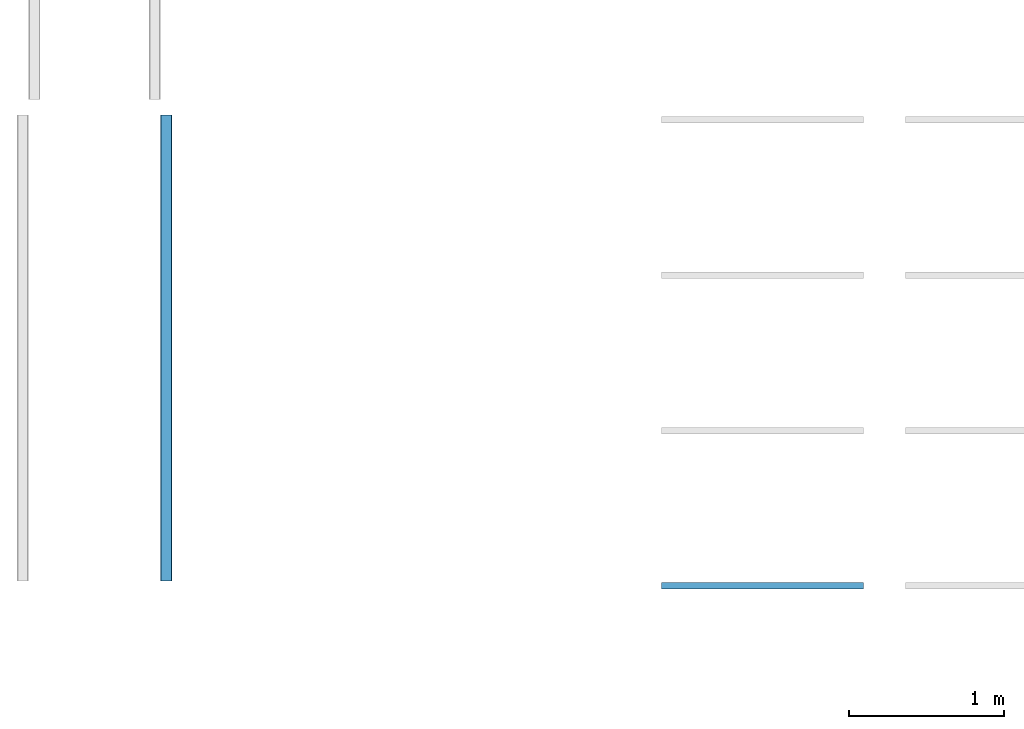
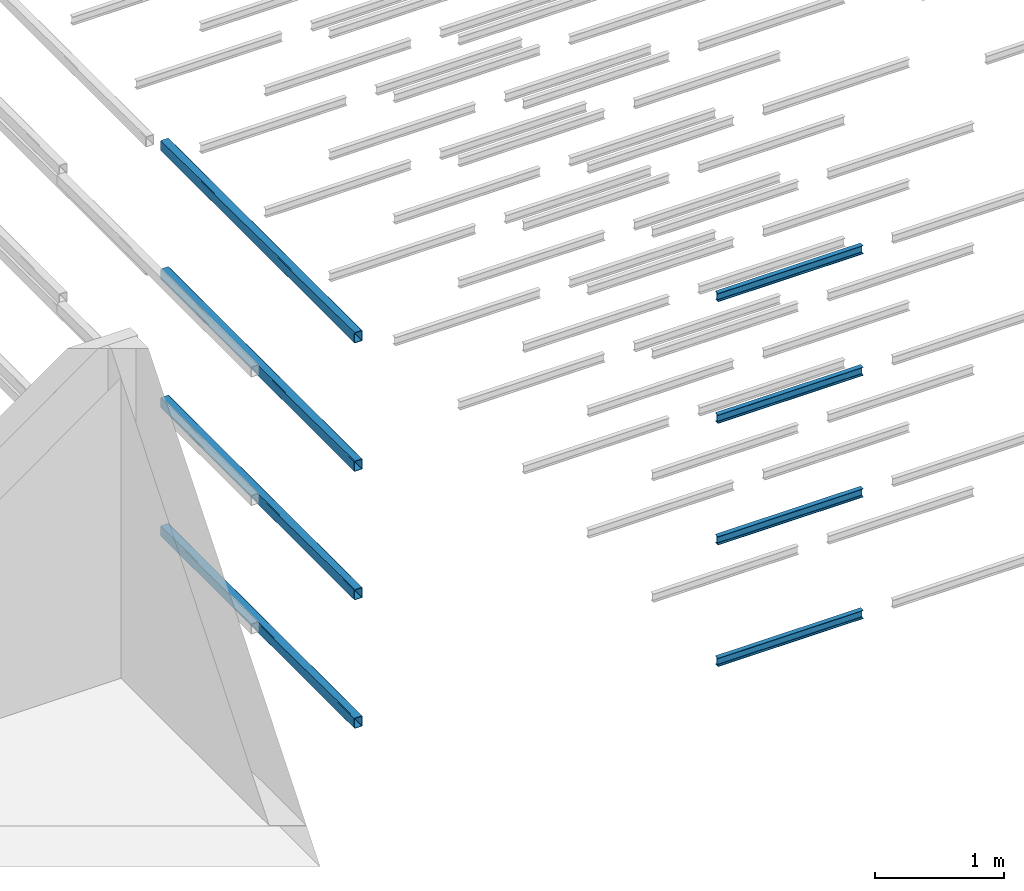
# One storey, part 32 of 290: 8 beams.
"""IFC2X3 building model written with IfcOpenShell, lengths in metres."""

from ifc_helpers import new_model, entity, si_unit, converted_unit, derived_unit, direction, frame, frame_2d, origin, place, context, subcontext, project, spatial, polyline, circle_curve, parameter, trimmed, segment, composite_curve, outline, extrude, material, type_object, element, save


model = new_model("IFC2X3")

# Units and contexts
model_context = context("Model", 3, precision=1e-05, world=origin(), true_north=direction((6.12303176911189e-17, 1.0)))
body_context = subcontext(model_context, "Body", "Model", "MODEL_VIEW")
ifc_project = project(units=[si_unit("LENGTHUNIT", "METRE"), si_unit("AREAUNIT", "SQUARE_METRE"), si_unit("VOLUMEUNIT", "CUBIC_METRE"), converted_unit("PLANEANGLEUNIT", "DEGREE", entity("IfcRatioMeasure", 0.0174532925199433), si_unit("PLANEANGLEUNIT", "RADIAN"), dimensions=[0, 0, 0, 0, 0, 0, 0]), si_unit("MASSUNIT", "GRAM", prefix="KILO"), derived_unit("MASSDENSITYUNIT", [(si_unit("MASSUNIT", "GRAM", prefix="KILO"), 1), (si_unit("LENGTHUNIT", "METRE"), -3)]), derived_unit("MOMENTOFINERTIAUNIT", [(si_unit("LENGTHUNIT", "METRE"), 4)]), si_unit("TIMEUNIT", "SECOND"), si_unit("FREQUENCYUNIT", "HERTZ"), si_unit("THERMODYNAMICTEMPERATUREUNIT", "DEGREE_CELSIUS"), derived_unit("THERMALTRANSMITTANCEUNIT", [(si_unit("MASSUNIT", "GRAM", prefix="KILO"), 1), (si_unit("THERMODYNAMICTEMPERATUREUNIT", "KELVIN"), -1), (si_unit("TIMEUNIT", "SECOND"), -3)]), derived_unit("VOLUMETRICFLOWRATEUNIT", [(si_unit("LENGTHUNIT", "METRE"), 3), (si_unit("TIMEUNIT", "SECOND"), -1)]), si_unit("ELECTRICCURRENTUNIT", "AMPERE"), si_unit("ELECTRICVOLTAGEUNIT", "VOLT"), si_unit("POWERUNIT", "WATT"), si_unit("FORCEUNIT", "NEWTON", prefix="KILO"), si_unit("ILLUMINANCEUNIT", "LUX"), si_unit("LUMINOUSFLUXUNIT", "LUMEN"), si_unit("LUMINOUSINTENSITYUNIT", "CANDELA"), derived_unit("USERDEFINED", [(si_unit("MASSUNIT", "GRAM", prefix="KILO"), -1), (si_unit("LENGTHUNIT", "METRE"), -2), (si_unit("TIMEUNIT", "SECOND"), 3), (si_unit("LUMINOUSFLUXUNIT", "LUMEN"), 1)]), derived_unit("LINEARVELOCITYUNIT", [(si_unit("LENGTHUNIT", "METRE"), 1), (si_unit("TIMEUNIT", "SECOND"), -1)]), si_unit("PRESSUREUNIT", "PASCAL"), derived_unit("USERDEFINED", [(si_unit("LENGTHUNIT", "METRE"), -2), (si_unit("MASSUNIT", "GRAM", prefix="KILO"), 1), (si_unit("TIMEUNIT", "SECOND"), -2)]), derived_unit("LINEARFORCEUNIT", [(si_unit("MASSUNIT", "GRAM", prefix="KILO"), 1), (si_unit("LENGTHUNIT", "METRE"), 1), (si_unit("TIMEUNIT", "SECOND"), -2), (si_unit("LENGTHUNIT", "METRE"), -1)]), derived_unit("PLANARFORCEUNIT", [(si_unit("MASSUNIT", "GRAM", prefix="KILO"), 1), (si_unit("LENGTHUNIT", "METRE"), 1), (si_unit("TIMEUNIT", "SECOND"), -2), (si_unit("LENGTHUNIT", "METRE"), -2)])], contexts=[model_context])

# Site, building, storey
site_placement = place(None, origin())
site = spatial("IfcSite", under=ifc_project, at=site_placement, Name="Default", CompositionType="ELEMENT")
building_placement = place(site_placement, origin())
building = spatial("IfcBuilding", under=site, at=building_placement, CompositionType="ELEMENT")
storey_placement = place(building_placement, frame((0.0, 0.0, 4.0)))
storey = spatial("IfcBuildingStorey", under=building, at=storey_placement, Name="01_OG", CompositionType="ELEMENT", Elevation=4.0)

# Beams
ifc_material_1 = material(Name="Metall - Baustahl S235 blau")
beam_type_1 = type_object("IfcBeamType", Name="RHS Träger (EN 10219-2):RHS 100 x 75 x 5", PredefinedType="NOTDEFINED")
beam_1_placement = place(storey_placement, frame((-175.305111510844, 24.048088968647, 0.0150000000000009), z_axis=(0.0, 0.0, 1.0), x_axis=(0.0, 1.0, 0.0)))
element("IfcBeam", 1, at=beam_1_placement, inside=storey, type_object=beam_type_1, material=ifc_material_1, Name="RHS Träger (EN 10219-2):RHS 100 x 75 x 5", ObjectType="RHS Träger (EN 10219-2):RHS 100 x 75 x 5", context=body_context, shape_type="SweptSolid", body=[
    extrude(outline(composite_curve([segment(polyline([(-0.0400000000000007, -0.0374999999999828), (0.0399999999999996, -0.0374999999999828)]), True, "CONTINUOUS"), segment(trimmed(circle_curve(frame_2d((0.0399999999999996, -0.0274999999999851), x_axis=(0.0, 1.0)), 0.01), [parameter(180.0)], [parameter(270.0)], True, "PARAMETER"), True, "CONTINUOUS"), segment(polyline([(0.0499999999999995, -0.0274999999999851), (0.0499999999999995, 0.0274999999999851)]), True, "CONTINUOUS"), segment(trimmed(circle_curve(frame_2d((0.0399999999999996, 0.0274999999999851), x_axis=(0.0, 1.0)), 0.01), [parameter(270.0)], [parameter(4.07110999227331e-13)], True, "PARAMETER"), True, "CONTINUOUS"), segment(polyline([(0.0399999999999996, 0.0375000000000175), (-0.0400000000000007, 0.0375000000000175)]), True, "CONTINUOUS"), segment(trimmed(circle_curve(frame_2d((-0.0400000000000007, 0.0274999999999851), x_axis=(0.0, 1.0)), 0.01), [parameter(360.0)], [parameter(90.0000000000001)], True, "PARAMETER"), True, "CONTINUOUS"), segment(polyline([(-0.0500000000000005, 0.0274999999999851), (-0.0500000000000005, -0.0274999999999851)]), True, "CONTINUOUS"), segment(trimmed(circle_curve(frame_2d((-0.0400000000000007, -0.0274999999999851), x_axis=(0.0, 1.0)), 0.01), [parameter(90.0000000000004)], [parameter(180.0)], True, "PARAMETER"), True, "CONTINUOUS")], self_intersect=False), holes=[composite_curve([segment(trimmed(circle_curve(frame_2d((-0.0400000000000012, 0.0274999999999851), x_axis=(0.0, 1.0)), 0.005), [parameter(360.0)], [parameter(89.9999999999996)], True, "PARAMETER"), False, "CONTINUOUS"), segment(polyline([(-0.0400000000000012, 0.0325000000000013), (0.0399999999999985, 0.0325000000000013)]), True, "CONTINUOUS"), segment(trimmed(circle_curve(frame_2d((0.0399999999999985, 0.0274999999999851), x_axis=(0.0, 1.0)), 0.005), [parameter(270.0)], [parameter(0.0)], True, "PARAMETER"), False, "CONTINUOUS"), segment(polyline([(0.0449999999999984, 0.0274999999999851), (0.0449999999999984, -0.0274999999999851)]), True, "CONTINUOUS"), segment(trimmed(circle_curve(frame_2d((0.0399999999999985, -0.0274999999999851), x_axis=(0.0, 1.0)), 0.005), [parameter(180.0)], [parameter(269.999999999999)], True, "PARAMETER"), False, "CONTINUOUS"), segment(polyline([(0.0399999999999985, -0.0325000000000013), (-0.0400000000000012, -0.0325000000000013)]), True, "CONTINUOUS"), segment(trimmed(circle_curve(frame_2d((-0.0400000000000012, -0.0274999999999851), x_axis=(0.0, 1.0)), 0.005), [parameter(90.0000000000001)], [parameter(180.0)], True, "PARAMETER"), False, "CONTINUOUS"), segment(polyline([(-0.0450000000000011, -0.0274999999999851), (-0.0450000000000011, 0.0274999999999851)]), True, "CONTINUOUS")], self_intersect=False)]), frame((9.99999999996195e-05, -0.0375000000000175, -0.0500000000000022), z_axis=(1.0, 0.0, 0.0), x_axis=(0.0, 0.0, -1.0)), (0.0, 0.0, 1.0), 2.9998),
])
beam_2_placement = place(storey_placement, frame((-175.305111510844, 24.048088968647, 1.23), z_axis=(0.0, 0.0, 1.0), x_axis=(0.0, 1.0, 0.0)))
element("IfcBeam", 2, at=beam_2_placement, inside=storey, type_object=beam_type_1, material=ifc_material_1, Name="RHS Träger (EN 10219-2):RHS 100 x 75 x 5", ObjectType="RHS Träger (EN 10219-2):RHS 100 x 75 x 5", context=body_context, shape_type="SweptSolid", body=[
    extrude(outline(composite_curve([segment(polyline([(-0.0399999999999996, -0.0374999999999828), (0.0399999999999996, -0.0374999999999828)]), True, "CONTINUOUS"), segment(trimmed(circle_curve(frame_2d((0.0399999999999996, -0.0274999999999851), x_axis=(0.0, 1.0)), 0.01), [parameter(180.0)], [parameter(270.0)], True, "PARAMETER"), True, "CONTINUOUS"), segment(polyline([(0.0500000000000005, -0.0274999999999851), (0.0500000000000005, 0.0274999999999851)]), True, "CONTINUOUS"), segment(trimmed(circle_curve(frame_2d((0.0399999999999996, 0.0274999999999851), x_axis=(0.0, 1.0)), 0.01), [parameter(270.0)], [parameter(4.07110999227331e-13)], True, "PARAMETER"), True, "CONTINUOUS"), segment(polyline([(0.0399999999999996, 0.0375000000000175), (-0.0399999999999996, 0.0375000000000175)]), True, "CONTINUOUS"), segment(trimmed(circle_curve(frame_2d((-0.0399999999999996, 0.0274999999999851), x_axis=(0.0, 1.0)), 0.01), [parameter(360.0)], [parameter(90.0000000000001)], True, "PARAMETER"), True, "CONTINUOUS"), segment(polyline([(-0.0499999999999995, 0.0274999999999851), (-0.0499999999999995, -0.0274999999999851)]), True, "CONTINUOUS"), segment(trimmed(circle_curve(frame_2d((-0.0399999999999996, -0.0274999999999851), x_axis=(0.0, 1.0)), 0.01), [parameter(90.0000000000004)], [parameter(180.0)], True, "PARAMETER"), True, "CONTINUOUS")], self_intersect=False), holes=[composite_curve([segment(trimmed(circle_curve(frame_2d((-0.0400000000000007, 0.0274999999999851), x_axis=(0.0, 1.0)), 0.005), [parameter(360.0)], [parameter(89.9999999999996)], True, "PARAMETER"), False, "CONTINUOUS"), segment(polyline([(-0.0400000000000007, 0.0325000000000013), (0.0399999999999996, 0.0325000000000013)]), True, "CONTINUOUS"), segment(trimmed(circle_curve(frame_2d((0.0399999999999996, 0.0274999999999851), x_axis=(0.0, 1.0)), 0.005), [parameter(270.0)], [parameter(0.0)], True, "PARAMETER"), False, "CONTINUOUS"), segment(polyline([(0.0449999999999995, 0.0274999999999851), (0.0449999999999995, -0.0274999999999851)]), True, "CONTINUOUS"), segment(trimmed(circle_curve(frame_2d((0.0399999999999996, -0.0274999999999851), x_axis=(0.0, 1.0)), 0.005), [parameter(180.0)], [parameter(269.999999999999)], True, "PARAMETER"), False, "CONTINUOUS"), segment(polyline([(0.0399999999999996, -0.0325000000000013), (-0.0400000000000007, -0.0325000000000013)]), True, "CONTINUOUS"), segment(trimmed(circle_curve(frame_2d((-0.0400000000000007, -0.0274999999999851), x_axis=(0.0, 1.0)), 0.005), [parameter(90.0000000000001)], [parameter(180.0)], True, "PARAMETER"), False, "CONTINUOUS"), segment(polyline([(-0.0450000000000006, -0.0274999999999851), (-0.0450000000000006, 0.0274999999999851)]), True, "CONTINUOUS")], self_intersect=False)]), frame((9.99999999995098e-05, -0.0375000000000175, -0.0500000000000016), z_axis=(1.0, 0.0, 0.0), x_axis=(0.0, 0.0, -1.0)), (0.0, 0.0, 1.0), 2.9998),
])
beam_3_placement = place(storey_placement, frame((-175.305111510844, 24.048088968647, 2.445), z_axis=(0.0, 0.0, 1.0), x_axis=(0.0, 1.0, 0.0)))
element("IfcBeam", 3, at=beam_3_placement, inside=storey, type_object=beam_type_1, material=ifc_material_1, Name="RHS Träger (EN 10219-2):RHS 100 x 75 x 5", ObjectType="RHS Träger (EN 10219-2):RHS 100 x 75 x 5", context=body_context, shape_type="SweptSolid", body=[
    extrude(outline(composite_curve([segment(polyline([(-0.0399999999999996, -0.0374999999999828), (0.0399999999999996, -0.0374999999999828)]), True, "CONTINUOUS"), segment(trimmed(circle_curve(frame_2d((0.0399999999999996, -0.0274999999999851), x_axis=(0.0, 1.0)), 0.01), [parameter(180.0)], [parameter(270.0)], True, "PARAMETER"), True, "CONTINUOUS"), segment(polyline([(0.0500000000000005, -0.0274999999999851), (0.0500000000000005, 0.0274999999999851)]), True, "CONTINUOUS"), segment(trimmed(circle_curve(frame_2d((0.0399999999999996, 0.0274999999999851), x_axis=(0.0, 1.0)), 0.01), [parameter(270.0)], [parameter(4.07110999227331e-13)], True, "PARAMETER"), True, "CONTINUOUS"), segment(polyline([(0.0399999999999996, 0.0375000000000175), (-0.0399999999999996, 0.0375000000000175)]), True, "CONTINUOUS"), segment(trimmed(circle_curve(frame_2d((-0.0399999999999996, 0.0274999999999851), x_axis=(0.0, 1.0)), 0.01), [parameter(360.0)], [parameter(90.0000000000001)], True, "PARAMETER"), True, "CONTINUOUS"), segment(polyline([(-0.0499999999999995, 0.0274999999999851), (-0.0499999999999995, -0.0274999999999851)]), True, "CONTINUOUS"), segment(trimmed(circle_curve(frame_2d((-0.0399999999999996, -0.0274999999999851), x_axis=(0.0, 1.0)), 0.01), [parameter(90.0000000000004)], [parameter(180.0)], True, "PARAMETER"), True, "CONTINUOUS")], self_intersect=False), holes=[composite_curve([segment(trimmed(circle_curve(frame_2d((-0.0400000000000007, 0.0274999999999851), x_axis=(0.0, 1.0)), 0.005), [parameter(360.0)], [parameter(89.9999999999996)], True, "PARAMETER"), False, "CONTINUOUS"), segment(polyline([(-0.0400000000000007, 0.0325000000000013), (0.0399999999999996, 0.0325000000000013)]), True, "CONTINUOUS"), segment(trimmed(circle_curve(frame_2d((0.0399999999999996, 0.0274999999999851), x_axis=(0.0, 1.0)), 0.005), [parameter(270.0)], [parameter(0.0)], True, "PARAMETER"), False, "CONTINUOUS"), segment(polyline([(0.0449999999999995, 0.0274999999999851), (0.0449999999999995, -0.0274999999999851)]), True, "CONTINUOUS"), segment(trimmed(circle_curve(frame_2d((0.0399999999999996, -0.0274999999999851), x_axis=(0.0, 1.0)), 0.005), [parameter(180.0)], [parameter(269.999999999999)], True, "PARAMETER"), False, "CONTINUOUS"), segment(polyline([(0.0399999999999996, -0.0325000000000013), (-0.0400000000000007, -0.0325000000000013)]), True, "CONTINUOUS"), segment(trimmed(circle_curve(frame_2d((-0.0400000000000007, -0.0274999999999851), x_axis=(0.0, 1.0)), 0.005), [parameter(90.0000000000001)], [parameter(180.0)], True, "PARAMETER"), False, "CONTINUOUS"), segment(polyline([(-0.0450000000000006, -0.0274999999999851), (-0.0450000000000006, 0.0274999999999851)]), True, "CONTINUOUS")], self_intersect=False)]), frame((9.99999999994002e-05, -0.0375000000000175, -0.0500000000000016), z_axis=(1.0, 0.0, 0.0), x_axis=(0.0, 0.0, -1.0)), (0.0, 0.0, 1.0), 2.9998),
])
beam_4_placement = place(storey_placement, frame((-175.305111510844, 24.048088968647, -1.2), z_axis=(0.0, 0.0, 1.0), x_axis=(0.0, 1.0, 0.0)))
element("IfcBeam", 4, at=beam_4_placement, inside=storey, type_object=beam_type_1, material=ifc_material_1, Name="RHS Träger (EN 10219-2):RHS 100 x 75 x 5", ObjectType="RHS Träger (EN 10219-2):RHS 100 x 75 x 5", context=body_context, shape_type="SweptSolid", body=[
    extrude(outline(composite_curve([segment(polyline([(-0.0400000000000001, -0.0374999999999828), (0.0400000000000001, -0.0374999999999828)]), True, "CONTINUOUS"), segment(trimmed(circle_curve(frame_2d((0.0400000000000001, -0.0274999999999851), x_axis=(0.0, 1.0)), 0.01), [parameter(180.0)], [parameter(270.0)], True, "PARAMETER"), True, "CONTINUOUS"), segment(polyline([(0.05, -0.0274999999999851), (0.05, 0.0274999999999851)]), True, "CONTINUOUS"), segment(trimmed(circle_curve(frame_2d((0.0400000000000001, 0.0274999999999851), x_axis=(0.0, 1.0)), 0.01), [parameter(270.0)], [parameter(4.07110999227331e-13)], True, "PARAMETER"), True, "CONTINUOUS"), segment(polyline([(0.0400000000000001, 0.0375000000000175), (-0.0400000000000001, 0.0375000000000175)]), True, "CONTINUOUS"), segment(trimmed(circle_curve(frame_2d((-0.0400000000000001, 0.0274999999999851), x_axis=(0.0, 1.0)), 0.01), [parameter(360.0)], [parameter(90.0000000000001)], True, "PARAMETER"), True, "CONTINUOUS"), segment(polyline([(-0.05, 0.0274999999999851), (-0.05, -0.0274999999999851)]), True, "CONTINUOUS"), segment(trimmed(circle_curve(frame_2d((-0.0400000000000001, -0.0274999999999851), x_axis=(0.0, 1.0)), 0.01), [parameter(90.0000000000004)], [parameter(180.0)], True, "PARAMETER"), True, "CONTINUOUS")], self_intersect=False), holes=[composite_curve([segment(trimmed(circle_curve(frame_2d((-0.0400000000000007, 0.0274999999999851), x_axis=(0.0, 1.0)), 0.005), [parameter(360.0)], [parameter(89.9999999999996)], True, "PARAMETER"), False, "CONTINUOUS"), segment(polyline([(-0.0400000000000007, 0.0325000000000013), (0.039999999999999, 0.0325000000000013)]), True, "CONTINUOUS"), segment(trimmed(circle_curve(frame_2d((0.039999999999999, 0.0274999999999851), x_axis=(0.0, 1.0)), 0.005), [parameter(270.0)], [parameter(0.0)], True, "PARAMETER"), False, "CONTINUOUS"), segment(polyline([(0.044999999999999, 0.0274999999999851), (0.044999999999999, -0.0274999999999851)]), True, "CONTINUOUS"), segment(trimmed(circle_curve(frame_2d((0.039999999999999, -0.0274999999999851), x_axis=(0.0, 1.0)), 0.005), [parameter(180.0)], [parameter(269.999999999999)], True, "PARAMETER"), False, "CONTINUOUS"), segment(polyline([(0.039999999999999, -0.0325000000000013), (-0.0400000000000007, -0.0325000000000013)]), True, "CONTINUOUS"), segment(trimmed(circle_curve(frame_2d((-0.0400000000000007, -0.0274999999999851), x_axis=(0.0, 1.0)), 0.005), [parameter(90.0000000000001)], [parameter(180.0)], True, "PARAMETER"), False, "CONTINUOUS"), segment(polyline([(-0.0450000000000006, -0.0274999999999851), (-0.0450000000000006, 0.0274999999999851)]), True, "CONTINUOUS")], self_intersect=False)]), frame((9.99999999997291e-05, -0.0375000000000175, -0.0500000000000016), z_axis=(1.0, 0.0, 0.0), x_axis=(0.0, 0.0, -1.0)), (0.0, 0.0, 1.0), 2.9998),
])
ifc_material_2 = material(Name="Metall - Baustahl S235")
beam_type_2 = type_object("IfcBeamType", Name="IPN Träger:IPN 80", PredefinedType="NOTDEFINED")
beam_5_placement = place(storey_placement, frame((-170.780111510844, 24.036588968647, -1.73), z_axis=(0.0, 0.0, 1.0), x_axis=(-1.0, 0.0, 0.0)))
element("IfcBeam", 5, at=beam_5_placement, inside=storey, type_object=beam_type_2, material=ifc_material_2, Name="IPN Träger:IPN 80", ObjectType="IPN Träger:IPN 80", context=body_context, shape_type="SweptSolid", body=[
    extrude(outline(composite_curve([segment(polyline([(0.0375704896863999, -0.0210000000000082), (0.0399999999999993, -0.0210000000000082)]), True, "CONTINUOUS"), segment(polyline([(0.0399999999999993, -0.0210000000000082), (0.0399999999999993, 0.0209999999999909)]), True, "CONTINUOUS"), segment(polyline([(0.0399999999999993, 0.0209999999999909), (0.0375704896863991, 0.0209999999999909)]), True, "CONTINUOUS"), segment(trimmed(circle_curve(frame_2d((0.0375704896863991, 0.0186999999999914), x_axis=(0.0, 1.0)), 0.00230000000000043), [parameter(0.0)], [parameter(82.0299999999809)], True, "PARAMETER"), True, "CONTINUOUS"), segment(polyline([(0.0352927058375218, 0.019018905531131), (0.0333732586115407, 0.00530924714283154)]), True, "CONTINUOUS"), segment(trimmed(circle_curve(frame_2d((0.0295109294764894, 0.00584999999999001), x_axis=(0.990340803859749, -0.138654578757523)), 0.00389999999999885), [parameter(277.969999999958)], [parameter(0.0)], True, "PARAMETER"), False, "CONTINUOUS"), segment(polyline([(0.0295109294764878, 0.00194999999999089), (-0.0295109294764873, 0.00194999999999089)]), True, "CONTINUOUS"), segment(trimmed(circle_curve(frame_2d((-0.0295109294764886, 0.00584999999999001), x_axis=(0.0, -1.0)), 0.00389999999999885), [parameter(277.969999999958)], [parameter(0.0)], True, "PARAMETER"), False, "CONTINUOUS"), segment(polyline([(-0.0333732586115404, 0.00530924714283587), (-0.0352927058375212, 0.0190189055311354)]), True, "CONTINUOUS"), segment(trimmed(circle_curve(frame_2d((-0.0375704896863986, 0.0186999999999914), x_axis=(0.990340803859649, 0.138654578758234)), 0.00230000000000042), [parameter(0.0)], [parameter(82.0299999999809)], True, "PARAMETER"), True, "CONTINUOUS"), segment(polyline([(-0.0375704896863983, 0.0209999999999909), (-0.0400000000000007, 0.0209999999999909)]), True, "CONTINUOUS"), segment(polyline([(-0.0400000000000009, 0.0209999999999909), (-0.0400000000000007, -0.0210000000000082)]), True, "CONTINUOUS"), segment(polyline([(-0.0400000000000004, -0.0210000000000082), (-0.0375704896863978, -0.0210000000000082)]), True, "CONTINUOUS"), segment(trimmed(circle_curve(frame_2d((-0.0375704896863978, -0.0187000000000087), x_axis=(0.0, -1.0)), 0.00230000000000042), [parameter(0.0)], [parameter(82.0299999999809)], True, "PARAMETER"), True, "CONTINUOUS"), segment(polyline([(-0.0352927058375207, -0.0190189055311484), (-0.0333732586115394, -0.0053092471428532)]), True, "CONTINUOUS"), segment(trimmed(circle_curve(frame_2d((-0.0295109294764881, -0.00585000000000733), x_axis=(-0.990340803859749, 0.138654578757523)), 0.00389999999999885), [parameter(277.969999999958)], [parameter(0.0)], True, "PARAMETER"), False, "CONTINUOUS"), segment(polyline([(-0.0295109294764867, -0.00195000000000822), (0.0295109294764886, -0.00195000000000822)]), True, "CONTINUOUS"), segment(trimmed(circle_curve(frame_2d((0.0295109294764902, -0.00585000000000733), x_axis=(0.0, 1.0)), 0.0038999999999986), [parameter(277.969999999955)], [parameter(0.0)], True, "PARAMETER"), False, "CONTINUOUS"), segment(polyline([(0.0333732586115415, -0.0053092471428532), (0.0352927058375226, -0.0190189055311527)]), True, "CONTINUOUS"), segment(trimmed(circle_curve(frame_2d((0.0375704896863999, -0.0187000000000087), x_axis=(-0.990340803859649, -0.138654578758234)), 0.00230000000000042), [parameter(0.0)], [parameter(82.0299999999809)], True, "PARAMETER"), True, "CONTINUOUS")], self_intersect=False)), frame((0.00010000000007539, 0.0210000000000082, -0.0400000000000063), z_axis=(1.0, 0.0, 0.0), x_axis=(0.0, 0.0, -1.0)), (0.0, 0.0, 1.0), 1.29990000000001),
])
beam_6_placement = place(storey_placement, frame((-170.780111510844, 24.036588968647, -0.579999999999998), z_axis=(0.0, 0.0, 1.0), x_axis=(-1.0, 0.0, 0.0)))
element("IfcBeam", 6, at=beam_6_placement, inside=storey, type_object=beam_type_2, material=ifc_material_2, Name="IPN Träger:IPN 80", ObjectType="IPN Träger:IPN 80", context=body_context, shape_type="SweptSolid", body=[
    extrude(outline(composite_curve([segment(polyline([(0.0375704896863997, -0.0210000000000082), (0.039999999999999, -0.0210000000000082)]), True, "CONTINUOUS"), segment(polyline([(0.039999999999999, -0.0210000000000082), (0.039999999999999, 0.0209999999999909)]), True, "CONTINUOUS"), segment(polyline([(0.039999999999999, 0.0209999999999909), (0.0375704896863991, 0.0209999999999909)]), True, "CONTINUOUS"), segment(trimmed(circle_curve(frame_2d((0.0375704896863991, 0.0186999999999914), x_axis=(0.0, 1.0)), 0.00230000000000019), [parameter(0.0)], [parameter(82.02999999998)], True, "PARAMETER"), True, "CONTINUOUS"), segment(polyline([(0.0352927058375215, 0.019018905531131), (0.0333732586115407, 0.00530924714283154)]), True, "CONTINUOUS"), segment(trimmed(circle_curve(frame_2d((0.0295109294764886, 0.00584999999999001), x_axis=(0.990340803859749, -0.138654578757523)), 0.00389999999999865), [parameter(277.969999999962)], [parameter(0.0)], True, "PARAMETER"), False, "CONTINUOUS"), segment(polyline([(0.0295109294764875, 0.00194999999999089), (-0.0295109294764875, 0.00194999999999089)]), True, "CONTINUOUS"), segment(trimmed(circle_curve(frame_2d((-0.0295109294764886, 0.00584999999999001), x_axis=(0.0, -1.0)), 0.00389999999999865), [parameter(277.969999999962)], [parameter(0.0)], True, "PARAMETER"), False, "CONTINUOUS"), segment(polyline([(-0.0333732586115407, 0.00530924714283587), (-0.0352927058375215, 0.0190189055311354)]), True, "CONTINUOUS"), segment(trimmed(circle_curve(frame_2d((-0.0375704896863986, 0.0186999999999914), x_axis=(0.990340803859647, 0.138654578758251)), 0.00230000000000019), [parameter(0.0)], [parameter(82.02999999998)], True, "PARAMETER"), True, "CONTINUOUS"), segment(polyline([(-0.0375704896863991, 0.0209999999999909), (-0.0400000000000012, 0.0209999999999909)]), True, "CONTINUOUS"), segment(polyline([(-0.0400000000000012, 0.0209999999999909), (-0.0400000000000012, -0.0210000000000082)]), True, "CONTINUOUS"), segment(polyline([(-0.0400000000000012, -0.0210000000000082), (-0.037570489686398, -0.0210000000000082)]), True, "CONTINUOUS"), segment(trimmed(circle_curve(frame_2d((-0.037570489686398, -0.0187000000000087), x_axis=(0.0, -1.0)), 0.00230000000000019), [parameter(0.0)], [parameter(82.02999999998)], True, "PARAMETER"), True, "CONTINUOUS"), segment(polyline([(-0.035292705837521, -0.0190189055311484), (-0.0333732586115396, -0.0053092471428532)]), True, "CONTINUOUS"), segment(trimmed(circle_curve(frame_2d((-0.0295109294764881, -0.00585000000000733), x_axis=(-0.990340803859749, 0.138654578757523)), 0.00389999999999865), [parameter(277.969999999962)], [parameter(0.0)], True, "PARAMETER"), False, "CONTINUOUS"), segment(polyline([(-0.029510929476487, -0.00195000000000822), (0.0295109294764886, -0.00195000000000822)]), True, "CONTINUOUS"), segment(trimmed(circle_curve(frame_2d((0.0295109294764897, -0.00585000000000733), x_axis=(0.0, 1.0)), 0.00389999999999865), [parameter(277.969999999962)], [parameter(0.0)], True, "PARAMETER"), False, "CONTINUOUS"), segment(polyline([(0.0333732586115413, -0.0053092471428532), (0.0352927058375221, -0.0190189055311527)]), True, "CONTINUOUS"), segment(trimmed(circle_curve(frame_2d((0.0375704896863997, -0.0187000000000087), x_axis=(-0.990340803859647, -0.138654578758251)), 0.00230000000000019), [parameter(0.0)], [parameter(82.02999999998)], True, "PARAMETER"), True, "CONTINUOUS")], self_intersect=False)), frame((0.000100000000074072, 0.0210000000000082, -0.0400000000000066), z_axis=(1.0, 0.0, 0.0), x_axis=(0.0, 0.0, -1.0)), (0.0, 0.0, 1.0), 1.29990000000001),
])
beam_7_placement = place(storey_placement, frame((-170.780111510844, 24.036588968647, 0.570000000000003), z_axis=(0.0, 0.0, 1.0), x_axis=(-1.0, 0.0, 0.0)))
element("IfcBeam", 7, at=beam_7_placement, inside=storey, type_object=beam_type_2, material=ifc_material_2, Name="IPN Träger:IPN 80", ObjectType="IPN Träger:IPN 80", context=body_context, shape_type="SweptSolid", body=[
    extrude(outline(composite_curve([segment(polyline([(0.0375704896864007, -0.0210000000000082), (0.0400000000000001, -0.0210000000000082)]), True, "CONTINUOUS"), segment(polyline([(0.0400000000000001, -0.0210000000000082), (0.0400000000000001, 0.0209999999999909)]), True, "CONTINUOUS"), segment(polyline([(0.0400000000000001, 0.0209999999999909), (0.0375704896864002, 0.0209999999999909)]), True, "CONTINUOUS"), segment(trimmed(circle_curve(frame_2d((0.0375704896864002, 0.0186999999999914), x_axis=(0.0, 1.0)), 0.00230000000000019), [parameter(0.0)], [parameter(82.02999999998)], True, "PARAMETER"), True, "CONTINUOUS"), segment(polyline([(0.0352927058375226, 0.019018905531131), (0.0333732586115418, 0.00530924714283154)]), True, "CONTINUOUS"), segment(trimmed(circle_curve(frame_2d((0.0295109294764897, 0.00584999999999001), x_axis=(0.990340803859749, -0.138654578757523)), 0.00389999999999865), [parameter(277.969999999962)], [parameter(0.0)], True, "PARAMETER"), False, "CONTINUOUS"), segment(polyline([(0.0295109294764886, 0.00194999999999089), (-0.0295109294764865, 0.00194999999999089)]), True, "CONTINUOUS"), segment(trimmed(circle_curve(frame_2d((-0.0295109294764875, 0.00584999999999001), x_axis=(0.0, -1.0)), 0.00389999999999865), [parameter(277.969999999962)], [parameter(0.0)], True, "PARAMETER"), False, "CONTINUOUS"), segment(polyline([(-0.0333732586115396, 0.00530924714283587), (-0.0352927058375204, 0.0190189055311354)]), True, "CONTINUOUS"), segment(trimmed(circle_curve(frame_2d((-0.0375704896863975, 0.0186999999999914), x_axis=(0.990340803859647, 0.138654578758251)), 0.00230000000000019), [parameter(0.0)], [parameter(82.02999999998)], True, "PARAMETER"), True, "CONTINUOUS"), segment(polyline([(-0.037570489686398, 0.0209999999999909), (-0.0400000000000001, 0.0209999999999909)]), True, "CONTINUOUS"), segment(polyline([(-0.0400000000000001, 0.0209999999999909), (-0.0400000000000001, -0.0210000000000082)]), True, "CONTINUOUS"), segment(polyline([(-0.0400000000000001, -0.0210000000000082), (-0.0375704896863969, -0.0210000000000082)]), True, "CONTINUOUS"), segment(trimmed(circle_curve(frame_2d((-0.0375704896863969, -0.0187000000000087), x_axis=(0.0, -1.0)), 0.00230000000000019), [parameter(0.0)], [parameter(82.02999999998)], True, "PARAMETER"), True, "CONTINUOUS"), segment(polyline([(-0.0352927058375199, -0.0190189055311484), (-0.0333732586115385, -0.0053092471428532)]), True, "CONTINUOUS"), segment(trimmed(circle_curve(frame_2d((-0.029510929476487, -0.00585000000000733), x_axis=(-0.990340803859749, 0.138654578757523)), 0.00389999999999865), [parameter(277.969999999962)], [parameter(0.0)], True, "PARAMETER"), False, "CONTINUOUS"), segment(polyline([(-0.0295109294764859, -0.00195000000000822), (0.0295109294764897, -0.00195000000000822)]), True, "CONTINUOUS"), segment(trimmed(circle_curve(frame_2d((0.0295109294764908, -0.00585000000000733), x_axis=(0.0, 1.0)), 0.00389999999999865), [parameter(277.969999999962)], [parameter(0.0)], True, "PARAMETER"), False, "CONTINUOUS"), segment(polyline([(0.0333732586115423, -0.0053092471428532), (0.0352927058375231, -0.0190189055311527)]), True, "CONTINUOUS"), segment(trimmed(circle_curve(frame_2d((0.0375704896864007, -0.0187000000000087), x_axis=(-0.990340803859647, -0.138654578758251)), 0.00230000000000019), [parameter(0.0)], [parameter(82.02999999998)], True, "PARAMETER"), True, "CONTINUOUS")], self_intersect=False)), frame((0.000100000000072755, 0.0210000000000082, -0.0400000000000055), z_axis=(1.0, 0.0, 0.0), x_axis=(0.0, 0.0, -1.0)), (0.0, 0.0, 1.0), 1.29990000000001),
])
beam_8_placement = place(storey_placement, frame((-170.780111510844, 24.036588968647, 1.72), z_axis=(0.0, 0.0, 1.0), x_axis=(-1.0, 0.0, 0.0)))
element("IfcBeam", 8, at=beam_8_placement, inside=storey, type_object=beam_type_2, material=ifc_material_2, Name="IPN Träger:IPN 80", ObjectType="IPN Träger:IPN 80", context=body_context, shape_type="SweptSolid", body=[
    extrude(outline(composite_curve([segment(polyline([(0.0375704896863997, -0.0210000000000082), (0.0399999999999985, -0.0210000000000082)]), True, "CONTINUOUS"), segment(polyline([(0.0399999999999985, -0.0210000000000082), (0.0399999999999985, 0.0209999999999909)]), True, "CONTINUOUS"), segment(polyline([(0.0399999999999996, 0.0209999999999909), (0.0375704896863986, 0.0209999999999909)]), True, "CONTINUOUS"), segment(trimmed(circle_curve(frame_2d((0.0375704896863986, 0.0186999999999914), x_axis=(0.0, 1.0)), 0.00230000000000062), [parameter(0.0)], [parameter(82.0299999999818)], True, "PARAMETER"), True, "CONTINUOUS"), segment(polyline([(0.0352927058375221, 0.019018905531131), (0.0333732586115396, 0.00530924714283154)]), True, "CONTINUOUS"), segment(trimmed(circle_curve(frame_2d((0.0295109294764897, 0.00584999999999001), x_axis=(0.990340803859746, -0.138654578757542)), 0.00389999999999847), [parameter(277.969999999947)], [parameter(0.0)], True, "PARAMETER"), False, "CONTINUOUS"), segment(polyline([(0.0295109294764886, 0.00194999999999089), (-0.0295109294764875, 0.00194999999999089)]), True, "CONTINUOUS"), segment(trimmed(circle_curve(frame_2d((-0.0295109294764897, 0.00584999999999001), x_axis=(0.0, -1.0)), 0.00389999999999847), [parameter(277.969999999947)], [parameter(0.0)], True, "PARAMETER"), False, "CONTINUOUS"), segment(polyline([(-0.0333732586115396, 0.00530924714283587), (-0.0352927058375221, 0.0190189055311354)]), True, "CONTINUOUS"), segment(trimmed(circle_curve(frame_2d((-0.0375704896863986, 0.0186999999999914), x_axis=(0.990340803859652, 0.138654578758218)), 0.00230000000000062), [parameter(0.0)], [parameter(82.0299999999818)], True, "PARAMETER"), True, "CONTINUOUS"), segment(polyline([(-0.0375704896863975, 0.0209999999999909), (-0.0400000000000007, 0.0209999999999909)]), True, "CONTINUOUS"), segment(polyline([(-0.0400000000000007, 0.0209999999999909), (-0.0400000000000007, -0.0210000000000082)]), True, "CONTINUOUS"), segment(polyline([(-0.0400000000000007, -0.0210000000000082), (-0.0375704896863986, -0.0210000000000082)]), True, "CONTINUOUS"), segment(trimmed(circle_curve(frame_2d((-0.0375704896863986, -0.0187000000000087), x_axis=(0.0, -1.0)), 0.00230000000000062), [parameter(0.0)], [parameter(82.0299999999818)], True, "PARAMETER"), True, "CONTINUOUS"), segment(polyline([(-0.035292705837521, -0.0190189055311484), (-0.0333732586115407, -0.0053092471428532)]), True, "CONTINUOUS"), segment(trimmed(circle_curve(frame_2d((-0.0295109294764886, -0.00585000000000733), x_axis=(-0.990340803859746, 0.138654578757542)), 0.00389999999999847), [parameter(277.969999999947)], [parameter(0.0)], True, "PARAMETER"), False, "CONTINUOUS"), segment(polyline([(-0.0295109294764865, -0.00195000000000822), (0.0295109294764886, -0.00195000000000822)]), True, "CONTINUOUS"), segment(trimmed(circle_curve(frame_2d((0.0295109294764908, -0.00585000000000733), x_axis=(0.0, 1.0)), 0.00389999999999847), [parameter(277.969999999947)], [parameter(0.0)], True, "PARAMETER"), False, "CONTINUOUS"), segment(polyline([(0.0333732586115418, -0.0053092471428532), (0.0352927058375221, -0.0190189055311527)]), True, "CONTINUOUS"), segment(trimmed(circle_curve(frame_2d((0.0375704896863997, -0.0187000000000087), x_axis=(-0.990340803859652, -0.138654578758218)), 0.00230000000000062), [parameter(0.0)], [parameter(82.0299999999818)], True, "PARAMETER"), True, "CONTINUOUS")], self_intersect=False)), frame((0.000100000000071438, 0.0210000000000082, -0.040000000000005), z_axis=(1.0, 0.0, 0.0), x_axis=(0.0, 0.0, -1.0)), (0.0, 0.0, 1.0), 1.29990000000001),
])

save(model, "model.ifc")
